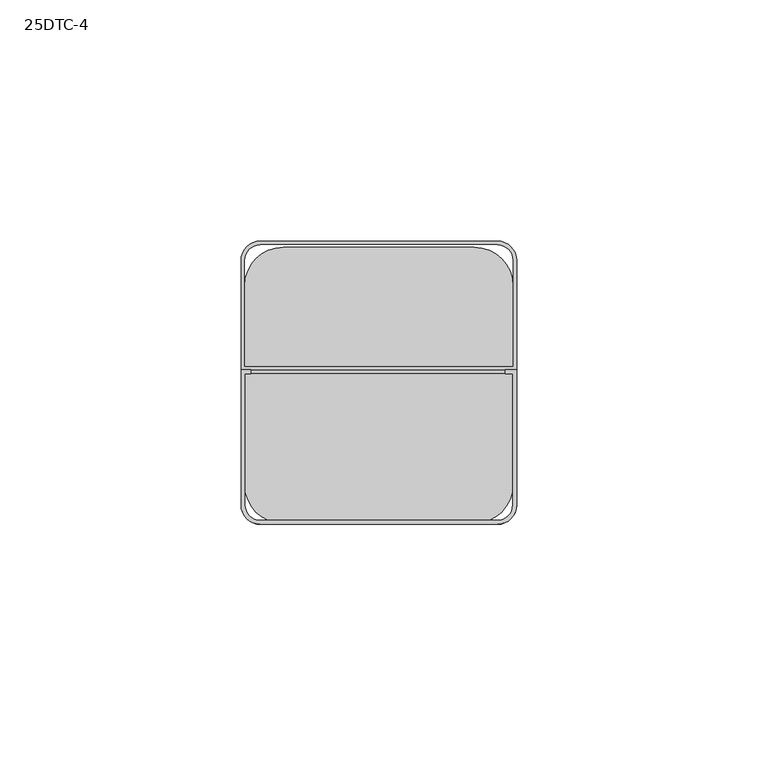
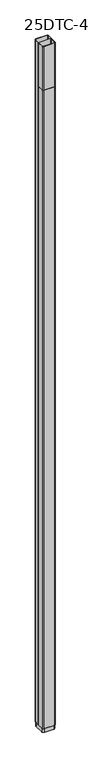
"""IFC4 building model written with IfcOpenShell, lengths in millimetres: proxy geometry, Vertical_Drop_Poles-Wiremold-Blank_Steel_Pole : 25DTC-4."""

from ifc_helpers import new_model, si_unit, point, frame, frame_2d, origin, origin_with_axes, place, context, project, spatial, polyline, circle_curve, trimmed, segment, composite_curve, outline, extrude, source, transform, mapped, element, save


def proxy_25dtc_4_291f1991(model_context):
    return source(origin(), model_context, "Body", "SweptSolid", [
        extrude(outline(composite_curve([segment(polyline([(28.575, 31.25), (28.575, 3.25)]), True, "CONTINUOUS"), segment(trimmed(circle_curve(frame_2d((24.575, 3.25)), 4.0), [point((28.575, 3.25))], [point((24.575, -0.75))], False, "CARTESIAN"), True, "CONTINUOUS"), segment(polyline([(24.575, -0.75), (-24.575, -0.75)]), True, "CONTINUOUS"), segment(trimmed(circle_curve(frame_2d((-24.575, 3.25)), 4.0), [point((-24.575, -0.75))], [point((-28.575, 3.25))], False, "CARTESIAN"), True, "CONTINUOUS"), segment(polyline([(-28.575, 3.25), (-28.575, 31.25), (-26.5875, 31.25), (-26.5875, 30.45), (-27.775, 30.45), (-27.775, 3.25)]), True, "CONTINUOUS"), segment(trimmed(circle_curve(frame_2d((-24.575, 3.25)), 3.2), [point((-27.775, 3.25))], [point((-24.575, 0.05))], True, "CARTESIAN"), True, "CONTINUOUS"), segment(polyline([(-24.575, 0.05), (24.575, 0.05)]), True, "CONTINUOUS"), segment(trimmed(circle_curve(frame_2d((24.575, 3.25)), 3.2), [point((24.575, 0.05))], [point((27.775, 3.25))], True, "CARTESIAN"), True, "CONTINUOUS"), segment(polyline([(27.775, 3.25), (27.775, 30.45), (26.1875, 30.45), (26.1875, 31.25), (28.575, 31.25)]), True, "CONTINUOUS")], self_intersect=False)), frame((0.0, 0.0, 2971.8), z_axis=(0.0, 0.0, 1.0), x_axis=(1.0, 0.0, 0.0)), (0.0, 0.0, 1.0), 203.2),
        extrude(outline(composite_curve([segment(trimmed(circle_curve(frame_2d((19.825, 49.2375)), 8.0), [point((19.825, 57.2375))], [point((27.825, 49.2375))], False, "CARTESIAN"), True, "CONTINUOUS"), segment(polyline([(27.825, 49.2375), (27.825, 8.0)]), True, "CONTINUOUS"), segment(trimmed(circle_curve(frame_2d((19.825, 8.0)), 8.0), [point((27.825, 8.0))], [point((19.825, 0.0))], False, "CARTESIAN"), True, "CONTINUOUS"), segment(polyline([(19.825, 0.0), (-19.825, 0.0)]), True, "CONTINUOUS"), segment(trimmed(circle_curve(frame_2d((-19.825, 8.0)), 8.0), [point((-19.825, 0.0))], [point((-27.825, 8.0))], False, "CARTESIAN"), True, "CONTINUOUS"), segment(polyline([(-27.825, 8.0), (-27.825, 49.2375)]), True, "CONTINUOUS"), segment(trimmed(circle_curve(frame_2d((-19.825, 49.2375)), 8.0), [point((-27.825, 49.2375))], [point((-19.825, 57.2375))], False, "CARTESIAN"), True, "CONTINUOUS"), segment(polyline([(-19.825, 57.2375), (19.825, 57.2375)]), True, "CONTINUOUS")], self_intersect=False)), frame((0.0, 0.0, -19.0), z_axis=(0.0, 0.0, 1.0), x_axis=(1.0, 0.0, 0.0)), (0.0, 0.0, 1.0), 19.0),
        extrude(outline(composite_curve([segment(trimmed(circle_curve(frame_2d((24.575, 53.9875)), 4.0), [point((24.575, 57.9875))], [point((28.575, 53.9875))], False, "CARTESIAN"), True, "CONTINUOUS"), segment(polyline([(28.575, 53.9875), (28.575, 31.25), (-28.575, 31.25), (-28.575, 53.9875)]), True, "CONTINUOUS"), segment(trimmed(circle_curve(frame_2d((-24.575, 53.9875)), 4.0), [point((-28.575, 53.9875))], [point((-24.575, 57.9875))], False, "CARTESIAN"), True, "CONTINUOUS"), segment(polyline([(-24.575, 57.9875), (24.575, 57.9875)]), True, "CONTINUOUS")], self_intersect=False), holes=[composite_curve([segment(polyline([(27.775, 32.05), (27.775, 53.9875)]), True, "CONTINUOUS"), segment(trimmed(circle_curve(frame_2d((24.575, 53.9875)), 3.2), [point((27.775, 53.9875))], [point((24.575, 57.1875))], True, "CARTESIAN"), True, "CONTINUOUS"), segment(polyline([(24.575, 57.1875), (-24.575, 57.1875)]), True, "CONTINUOUS"), segment(trimmed(circle_curve(frame_2d((-24.575, 53.9875)), 3.2), [point((-24.575, 57.1875))], [point((-27.775, 53.9875))], True, "CARTESIAN"), True, "CONTINUOUS"), segment(polyline([(-27.775, 53.9875), (-27.775, 32.05), (27.775, 32.05)]), True, "CONTINUOUS")], self_intersect=False)]), origin_with_axes(), (0.0, 0.0, 1.0), 3175.0),
        extrude(outline(composite_curve([segment(polyline([(28.575, 31.25), (28.575, 3.25)]), True, "CONTINUOUS"), segment(trimmed(circle_curve(frame_2d((24.575, 3.25)), 4.0), [point((28.575, 3.25))], [point((24.575, -0.75))], False, "CARTESIAN"), True, "CONTINUOUS"), segment(polyline([(24.575, -0.75), (-24.575, -0.75)]), True, "CONTINUOUS"), segment(trimmed(circle_curve(frame_2d((-24.575, 3.25)), 4.0), [point((-24.575, -0.75))], [point((-28.575, 3.25))], False, "CARTESIAN"), True, "CONTINUOUS"), segment(polyline([(-28.575, 3.25), (-28.575, 31.25), (28.575, 31.25)]), True, "CONTINUOUS")], self_intersect=False), holes=[composite_curve([segment(polyline([(-27.775, 30.45), (-27.775, 3.25)]), True, "CONTINUOUS"), segment(trimmed(circle_curve(frame_2d((-24.575, 3.25)), 3.2), [point((-27.775, 3.25))], [point((-24.575, 0.05))], True, "CARTESIAN"), True, "CONTINUOUS"), segment(polyline([(-24.575, 0.05), (24.575, 0.05)]), True, "CONTINUOUS"), segment(trimmed(circle_curve(frame_2d((24.575, 3.25)), 3.2), [point((24.575, 0.05))], [point((27.775, 3.25))], True, "CARTESIAN"), True, "CONTINUOUS"), segment(polyline([(27.775, 3.25), (27.775, 30.45), (-27.775, 30.45)]), True, "CONTINUOUS")], self_intersect=False)]), origin_with_axes(), (0.0, 0.0, 1.0), 2971.8),
    ])


if __name__ == "__main__":
    model = new_model("IFC4")
    model_context = context("Model", 3, world=origin())
    ifc_project = project(units=[si_unit("LENGTHUNIT", "METRE", prefix="MILLI")], contexts=[model_context])
    site = spatial("IfcSite", under=ifc_project)
    building = spatial("IfcBuilding", under=site)
    placement = place(None, origin())
    proxy_25dtc_4_shape = proxy_25dtc_4_291f1991(model_context)
    element("IfcBuildingElementProxy", 1, Name="Vertical_Drop_Poles-Wiremold-Blank_Steel_Pole : 25DTC-4", ObjectType="Vertical_Drop_Poles-Wiremold-Blank_Steel_Pole : 25DTC-4", at=placement, inside=building, context=model_context, shape_type="MappedRepresentation", body=[
        mapped(proxy_25dtc_4_shape, transform((0.0, 0.0, 0.0), x_axis=(1.0, 0.0, 0.0), y_axis=(0.0, 1.0, 0.0), z_axis=(0.0, 0.0, 1.0))),
    ])
    save(model, "model.ifc")
